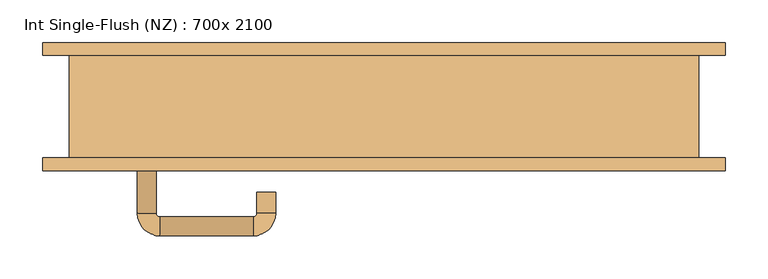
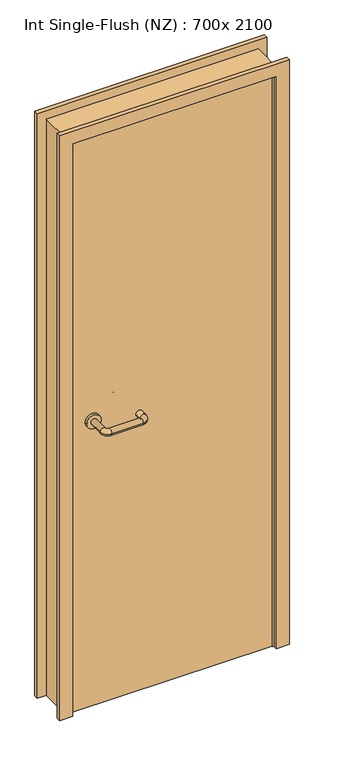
"""IFC4 building model written with IfcOpenShell, lengths in millimetres: door geometry, Int Single-Flush (NZ) : 700x 2100."""

from ifc_helpers import new_model, si_unit, point, frame, frame_2d, origin, place, context, project, spatial, polyline, circle_curve, ellipse_curve, trimmed, segment, composite_curve, outline, extrude, faceted_brep, source, transform, mapped, element, save
from ifc_brep_helpers import plane_surface, cylinder_surface, revolved_surface, advanced_brep


def int_single_flush_nz_700x_2100_e1d28701(model_context):
    return source(origin(), model_context, "Body", "SolidModel", [
        extrude(outline(polyline([(2119.0, -444.0), (0.0, -444.0), (0.0, -425.0), (2100.0, -425.0), (2100.0, 275.0), (0.0, 275.0), (0.0, 294.0), (2119.0, 294.0), (2119.0, -444.0)])), frame((0.0, -60.0, 0.0), z_axis=(0.0, 1.0, 0.0), x_axis=(0.0, 0.0, 1.0)), (0.0, 0.0, 1.0), 120.0),
        faceted_brep([(-425.0, -19.0, 0.0), (-425.0, 26.0, 0.0), (-406.6719264, 26.0, 0.0), (-406.6719264, -19.0, 0.0), (-406.6719264, -19.0, 2081.6719264), (-425.0, -19.0, 2100.0), (-406.6719264, 26.0, 2081.6719264), (-425.0, 26.0, 2100.0), (275.0, -19.0, 0.0), (256.6719264, -19.0, 0.0), (256.6719264, 26.0, 0.0), (275.0, 26.0, 0.0), (275.0, -19.0, 2100.0), (275.0, 26.0, 2100.0), (256.6719264, 26.0, 2081.6719264), (256.6719264, -19.0, 2081.6719264)], [[[0, 1, 2, 3]], [[3, 4, 5, 0]], [[2, 6, 4, 3]], [[1, 7, 6, 2]], [[0, 5, 7, 1]], [[8, 9, 10, 11]], [[12, 8, 11, 13]], [[13, 11, 10, 14]], [[14, 10, 9, 15]], [[15, 9, 8, 12]], [[4, 15, 12, 5]], [[6, 14, 15, 4]], [[7, 13, 14, 6]], [[5, 12, 13, 7]]]),
        extrude(outline(polyline([(2150.0, 325.0), (2150.0, -475.0), (0.0, -475.0), (0.0, -430.0), (2105.0, -430.0), (2105.0, 280.0), (0.0, 280.0), (0.0, 325.0), (2150.0, 325.0)])), frame((0.0, -75.0, 0.0), z_axis=(0.0, 1.0, 0.0), x_axis=(0.0, 0.0, 1.0)), (0.0, 0.0, 1.0), 15.0),
        extrude(outline(polyline([(2150.0, -475.0), (0.0, -475.0), (0.0, -430.0), (2105.0, -430.0), (2105.0, 280.0), (0.0, 280.0), (0.0, 325.0), (2150.0, 325.0), (2150.0, -475.0)])), frame((0.0, 60.0, 0.0), z_axis=(0.0, 1.0, 0.0), x_axis=(0.0, 0.0, 1.0)), (0.0, 0.0, 1.0), 15.0),
        advanced_brep(
        [(-364.0, -12.0160352, 1053.0), (-342.0, -12.0160352, 1053.0), (-342.0, 42.9839648, 1053.0), (-364.0, 42.9839648, 1053.0), (-338.0, 46.9839648, 1053.0), (-338.0, 68.9839648, 1053.0), (-228.0, 46.9839648, 1053.0), (-228.0, 68.9839648, 1053.0), (-224.0, 42.9839648, 1053.0), (-202.0, 42.9839648, 1053.0), (-202.0, 17.9839648, 1053.0), (-224.0, 17.9839648, 1053.0)],
        [
            (0, 1, circle_curve(frame((-353.0, -12.0160352, 1053.0), z_axis=(0.0, -1.0, 0.0), x_axis=(1.0, 0.0, 0.0)), 11.0)),
            (1, 0, circle_curve(frame((-353.0, -12.0160352, 1053.0), z_axis=(0.0, -1.0, 0.0), x_axis=(1.0, 0.0, 0.0)), 11.0)),
            (1, 2),
            (2, 3, circle_curve(frame((-353.0, 42.9839648, 1053.0), z_axis=(0.0, -1.0, 0.0), x_axis=(1.0, 0.0, 0.0)), 11.0)),
            (3, 0),
            (3, 2, circle_curve(frame((-353.0, 42.9839648, 1053.0), z_axis=(0.0, -1.0, 0.0), x_axis=(1.0, 0.0, 0.0)), 11.0)),
            (4, 5, circle_curve(frame((-338.0, 57.9839648, 1053.0), z_axis=(-1.0, 0.0, 0.0), x_axis=(0.0, -1.0, 0.0)), 11.0)),
            (5, 3, circle_curve(frame((-338.0, 42.9839648, 1053.0), z_axis=(0.0, 0.0, 1.0), x_axis=(-1.0, 0.0, 0.0)), 26.0)),
            (2, 4, circle_curve(frame((-338.0, 42.9839648, 1053.0), z_axis=(0.0, 0.0, -1.0), x_axis=(-1.0, 0.0, 0.0)), 4.0)),
            (5, 4, circle_curve(frame((-338.0, 57.9839648, 1053.0), z_axis=(-1.0, 0.0, 0.0), x_axis=(0.0, -1.0, 0.0)), 11.0)),
            (4, 6),
            (6, 7, circle_curve(frame((-228.0, 57.9839648, 1053.0), z_axis=(-1.0, 0.0, 0.0), x_axis=(0.0, -1.0, 0.0)), 11.0)),
            (7, 5),
            (7, 6, circle_curve(frame((-228.0, 57.9839648, 1053.0), z_axis=(-1.0, 0.0, 0.0), x_axis=(0.0, -1.0, 0.0)), 11.0)),
            (8, 9, circle_curve(frame((-213.0, 42.9839648, 1053.0), z_axis=(0.0, 1.0, 0.0), x_axis=(-1.0, 0.0, 0.0)), 11.0)),
            (9, 7, circle_curve(frame((-228.0, 42.9839648, 1053.0), z_axis=(0.0, 0.0, 1.0), x_axis=(0.0, 1.0, 0.0)), 26.0)),
            (6, 8, circle_curve(frame((-228.0, 42.9839648, 1053.0), z_axis=(0.0, 0.0, -1.0), x_axis=(0.0, 1.0, 0.0)), 4.0)),
            (9, 8, circle_curve(frame((-213.0, 42.9839648, 1053.0), z_axis=(0.0, 1.0, 0.0), x_axis=(-1.0, 0.0, 0.0)), 11.0)),
            (10, 11, circle_curve(frame((-213.0, 17.9839648, 1053.0), z_axis=(0.0, -1.0, 0.0), x_axis=(-1.0, 0.0, 0.0)), 11.0)),
            (11, 10, circle_curve(frame((-213.0, 17.9839648, 1053.0), z_axis=(0.0, -1.0, 0.0), x_axis=(-1.0, 0.0, 0.0)), 11.0)),
            (8, 11),
            (10, 9),
        ],
        [
            plane_surface(frame((-364.0, -12.0160352, 1053.0), z_axis=(0.0, -1.0, 0.0), x_axis=(0.0, 0.0, -1.0))),
            cylinder_surface(frame((-353.0, -12.0160352, 1053.0), z_axis=(0.0, -1.0, 0.0), x_axis=(1.0, 0.0, 0.0)), 11.0),
            revolved_surface(trimmed(ellipse_curve(frame((-353.0, 42.9839648, 1053.0), z_axis=(0.0, 1.0, 0.0), x_axis=(1.0, 0.0, 0.0)), 11.0, 11.0), [point((-364.0, 42.9839648, 1053.0))], [point((-342.0, 42.9839648, 1053.0))], True, "CARTESIAN"), (-338.0, 42.9839648, 1053.0), (0.0, 0.0, 1.0)),
            revolved_surface(trimmed(ellipse_curve(frame((-353.0, 42.9839648, 1053.0), z_axis=(0.0, 1.0, 0.0), x_axis=(1.0, 0.0, 0.0)), 11.0, 11.0), [point((-342.0, 42.9839648, 1053.0))], [point((-364.0, 42.9839648, 1053.0))], True, "CARTESIAN"), (-338.0, 42.9839648, 1053.0), (0.0, 0.0, 1.0)),
            cylinder_surface(frame((-338.0, 57.9839648, 1053.0), z_axis=(-1.0, 0.0, 0.0), x_axis=(0.0, -1.0, 0.0)), 11.0),
            revolved_surface(trimmed(ellipse_curve(frame((-228.0, 57.9839648, 1053.0), z_axis=(1.0, 0.0, 0.0), x_axis=(0.0, -1.0, 0.0)), 11.0, 11.0), [point((-228.0, 68.9839648, 1053.0))], [point((-228.0, 46.9839648, 1053.0))], True, "CARTESIAN"), (-228.0, 42.9839648, 1053.0), (0.0, 0.0, 1.0)),
            revolved_surface(trimmed(ellipse_curve(frame((-228.0, 57.9839648, 1053.0), z_axis=(1.0, 0.0, 0.0), x_axis=(0.0, -1.0, 0.0)), 11.0, 11.0), [point((-228.0, 46.9839648, 1053.0))], [point((-228.0, 68.9839648, 1053.0))], True, "CARTESIAN"), (-228.0, 42.9839648, 1053.0), (0.0, 0.0, 1.0)),
            plane_surface(frame((-224.0, 17.9839648, 1053.0), z_axis=(0.0, -1.0, 0.0), x_axis=(0.0, 0.0, 1.0))),
            cylinder_surface(frame((-213.0, 42.9839648, 1053.0), z_axis=(0.0, 1.0, 0.0), x_axis=(-1.0, 0.0, 0.0)), 11.0),
        ],
        [
            (0, [[1, 2]]),
            (1, [[3, 4, 5, -2]]),
            (1, [[-5, 6, -3, -1]]),
            (2, [[7, 8, -4, 9]]),
            (3, [[10, -9, -6, -8]]),
            (4, [[11, 12, 13, -7]]),
            (4, [[-13, 14, -11, -10]]),
            (5, [[15, 16, -12, 17]]),
            (6, [[18, -17, -14, -16]]),
            (7, [[19, 20]]),
            (8, [[21, -19, 22, -15]]),
            (8, [[-22, -20, -21, -18]]),
        ],
    ),
        extrude(outline(composite_curve([segment(trimmed(circle_curve(frame_2d((1053.0, -353.0)), 25.0), [point((1053.0, -378.0))], [point((1053.0, -328.0))], False, "CARTESIAN"), True, "CONTINUOUS"), segment(trimmed(circle_curve(frame_2d((1053.0, -353.0)), 25.0), [point((1053.0, -328.0))], [point((1053.0, -378.0))], False, "CARTESIAN"), True, "CONTINUOUS")], self_intersect=False)), frame((0.0, -22.0, 0.0), z_axis=(0.0, 1.0, 0.0), x_axis=(0.0, 0.0, 1.0)), (0.0, 0.0, 1.0), 9.9839648),
        advanced_brep(
        [(-342.0, -70.0, 1053.0), (-364.0, -70.0, 1053.0), (-364.0, -125.0, 1053.0), (-342.0, -125.0, 1053.0), (-338.0, -151.0, 1053.0), (-338.0, -129.0, 1053.0), (-228.0, -151.0, 1053.0), (-228.0, -129.0, 1053.0), (-202.0, -125.0, 1053.0), (-224.0, -125.0, 1053.0), (-224.0, -100.0, 1053.0), (-202.0, -100.0, 1053.0)],
        [
            (0, 1, circle_curve(frame((-353.0, -70.0, 1053.0), z_axis=(0.0, 1.0, 0.0), x_axis=(-1.0, 0.0, 0.0)), 11.0)),
            (1, 0, circle_curve(frame((-353.0, -70.0, 1053.0), z_axis=(0.0, 1.0, 0.0), x_axis=(-1.0, 0.0, 0.0)), 11.0)),
            (1, 2),
            (2, 3, circle_curve(frame((-353.0, -125.0, 1053.0), z_axis=(0.0, 1.0, 0.0), x_axis=(-1.0, 0.0, 0.0)), 11.0)),
            (3, 0),
            (3, 2, circle_curve(frame((-353.0, -125.0, 1053.0), z_axis=(0.0, 1.0, 0.0), x_axis=(-1.0, 0.0, 0.0)), 11.0)),
            (4, 5, circle_curve(frame((-338.0, -140.0, 1053.0), z_axis=(-1.0, 0.0, 0.0), x_axis=(0.0, -1.0, 0.0)), 11.0)),
            (5, 3, circle_curve(frame((-338.0, -125.0, 1053.0), z_axis=(0.0, 0.0, -1.0), x_axis=(-1.0, 0.0, 0.0)), 4.0)),
            (2, 4, circle_curve(frame((-338.0, -125.0, 1053.0), z_axis=(0.0, 0.0, 1.0), x_axis=(-1.0, 0.0, 0.0)), 26.0)),
            (5, 4, circle_curve(frame((-338.0, -140.0, 1053.0), z_axis=(-1.0, 0.0, 0.0), x_axis=(0.0, -1.0, 0.0)), 11.0)),
            (4, 6),
            (6, 7, circle_curve(frame((-228.0, -140.0, 1053.0), z_axis=(-1.0, 0.0, 0.0), x_axis=(0.0, -1.0, 0.0)), 11.0)),
            (7, 5),
            (7, 6, circle_curve(frame((-228.0, -140.0, 1053.0), z_axis=(-1.0, 0.0, 0.0), x_axis=(0.0, -1.0, 0.0)), 11.0)),
            (8, 9, circle_curve(frame((-213.0, -125.0, 1053.0), z_axis=(0.0, -1.0, 0.0), x_axis=(1.0, 0.0, 0.0)), 11.0)),
            (9, 7, circle_curve(frame((-228.0, -125.0, 1053.0), z_axis=(0.0, 0.0, -1.0), x_axis=(0.0, -1.0, 0.0)), 4.0)),
            (6, 8, circle_curve(frame((-228.0, -125.0, 1053.0), z_axis=(0.0, 0.0, 1.0), x_axis=(0.0, -1.0, 0.0)), 26.0)),
            (9, 8, circle_curve(frame((-213.0, -125.0, 1053.0), z_axis=(0.0, -1.0, 0.0), x_axis=(1.0, 0.0, 0.0)), 11.0)),
            (10, 11, circle_curve(frame((-213.0, -100.0, 1053.0), z_axis=(0.0, 1.0, 0.0), x_axis=(1.0, 0.0, 0.0)), 11.0)),
            (11, 10, circle_curve(frame((-213.0, -100.0, 1053.0), z_axis=(0.0, 1.0, 0.0), x_axis=(1.0, 0.0, 0.0)), 11.0)),
            (8, 11),
            (10, 9),
        ],
        [
            plane_surface(frame((-364.0, -70.0, 1053.0), z_axis=(0.0, 1.0, 0.0), x_axis=(0.0, 0.0, 1.0))),
            cylinder_surface(frame((-353.0, -70.0, 1053.0), z_axis=(0.0, 1.0, 0.0), x_axis=(-1.0, 0.0, 0.0)), 11.0),
            revolved_surface(trimmed(ellipse_curve(frame((-353.0, -125.0, 1053.0), z_axis=(0.0, -1.0, 0.0), x_axis=(-1.0, 0.0, 0.0)), 11.0, 11.0), [point((-342.0, -125.0, 1053.0))], [point((-364.0, -125.0, 1053.0))], True, "CARTESIAN"), (-338.0, -125.0, 1053.0), (0.0, 0.0, -1.0)),
            revolved_surface(trimmed(ellipse_curve(frame((-353.0, -125.0, 1053.0), z_axis=(0.0, -1.0, 0.0), x_axis=(-1.0, 0.0, 0.0)), 11.0, 11.0), [point((-364.0, -125.0, 1053.0))], [point((-342.0, -125.0, 1053.0))], True, "CARTESIAN"), (-338.0, -125.0, 1053.0), (0.0, 0.0, -1.0)),
            cylinder_surface(frame((-338.0, -140.0, 1053.0), z_axis=(-1.0, 0.0, 0.0), x_axis=(0.0, -1.0, 0.0)), 11.0),
            revolved_surface(trimmed(ellipse_curve(frame((-228.0, -140.0, 1053.0), z_axis=(1.0, 0.0, 0.0), x_axis=(0.0, -1.0, 0.0)), 11.0, 11.0), [point((-228.0, -129.0, 1053.0))], [point((-228.0, -151.0, 1053.0))], True, "CARTESIAN"), (-228.0, -125.0, 1053.0), (0.0, 0.0, -1.0)),
            revolved_surface(trimmed(ellipse_curve(frame((-228.0, -140.0, 1053.0), z_axis=(1.0, 0.0, 0.0), x_axis=(0.0, -1.0, 0.0)), 11.0, 11.0), [point((-228.0, -151.0, 1053.0))], [point((-228.0, -129.0, 1053.0))], True, "CARTESIAN"), (-228.0, -125.0, 1053.0), (0.0, 0.0, -1.0)),
            plane_surface(frame((-224.0, -100.0, 1053.0), z_axis=(0.0, 1.0, 0.0), x_axis=(0.0, 0.0, -1.0))),
            cylinder_surface(frame((-213.0, -125.0, 1053.0), z_axis=(0.0, -1.0, 0.0), x_axis=(1.0, 0.0, 0.0)), 11.0),
        ],
        [
            (0, [[1, 2]]),
            (1, [[3, 4, 5, -2]]),
            (1, [[-5, 6, -3, -1]]),
            (2, [[7, 8, -4, 9]]),
            (3, [[10, -9, -6, -8]]),
            (4, [[11, 12, 13, -7]]),
            (4, [[-13, 14, -11, -10]]),
            (5, [[15, 16, -12, 17]]),
            (6, [[18, -17, -14, -16]]),
            (7, [[19, 20]]),
            (8, [[21, -19, 22, -15]]),
            (8, [[-22, -20, -21, -18]]),
        ],
    ),
        extrude(outline(composite_curve([segment(trimmed(circle_curve(frame_2d((1053.0, -353.0)), 25.0), [point((1053.0, -328.0))], [point((1053.0, -378.0))], False, "CARTESIAN"), True, "CONTINUOUS"), segment(trimmed(circle_curve(frame_2d((1053.0, -353.0)), 25.0), [point((1053.0, -378.0))], [point((1053.0, -328.0))], False, "CARTESIAN"), True, "CONTINUOUS")], self_intersect=False)), frame((0.0, -70.0, 0.0), z_axis=(0.0, 1.0, 0.0), x_axis=(0.0, 0.0, 1.0)), (0.0, 0.0, 1.0), 10.0),
        extrude(outline(polyline([(272.0, -22.0), (272.0, -60.0), (-428.0, -60.0), (-428.0, -22.0), (272.0, -22.0)])), frame((0.0, 0.0, 3.0), z_axis=(0.0, 0.0, 1.0), x_axis=(1.0, 0.0, 0.0)), (0.0, 0.0, 1.0), 2094.0),
    ])


if __name__ == "__main__":
    model = new_model("IFC4")
    model_context = context("Model", 3, world=origin())
    ifc_project = project(units=[si_unit("LENGTHUNIT", "METRE", prefix="MILLI")], contexts=[model_context])
    site = spatial("IfcSite", under=ifc_project)
    building = spatial("IfcBuilding", under=site)
    placement = place(None, origin())
    int_single_flush_nz_700x_2100_shape = int_single_flush_nz_700x_2100_e1d28701(model_context)
    element("IfcDoor", 1, ObjectType="Int Single-Flush (NZ) : 700x 2100", at=placement, inside=building, context=model_context, shape_type="MappedRepresentation", body=[
        mapped(int_single_flush_nz_700x_2100_shape, transform((0.0, 0.0, 0.0), x_axis=(1.0, 0.0, 0.0), y_axis=(0.0, 1.0, 0.0), z_axis=(0.0, 0.0, 1.0))),
    ])
    save(model, "model.ifc")
